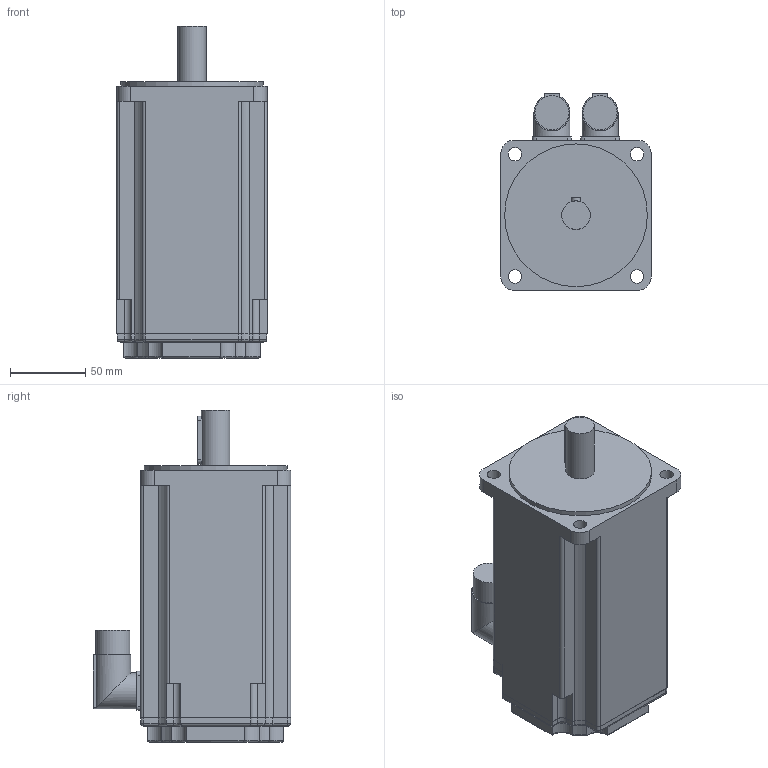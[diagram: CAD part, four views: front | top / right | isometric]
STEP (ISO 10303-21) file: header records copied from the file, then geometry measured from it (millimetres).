
FILE_DESCRIPTION(/* description */ (''),/* implementation_level */ '2;1');
FILE_NAME(/* name */ '\\Lafnas01\disegni\Archivi Lafert\3D\CAD 3D\MODELLI\Assiemi clienti\Serad\Modelli 3D Serad\B63Q\Encoder\Enc Without Brake\B6306Qxx6ARx2033.ipt.stp',/* time_stamp */ '2015-09-07T10:51:00+02:00',/* author */ ('Pastrello Ylenia'),/* organization */ (''),/* preprocessor_version */ 'ST-DEVELOPER v15.6',/* originating_system */ 'Autodesk Inventor 2015',/* authorisation */ '');
FILE_SCHEMA (('AUTOMOTIVE_DESIGN { 1 0 10303 214 3 1 1 }'));
Length unit declared in the file: millimetre
Products named in the file (1): B6306Qxx6ARx2033
Bounding box: 100 x 131.5 x 221 mm (x, y, z)
Volume: 1667898.2 mm3; surface area: 100752.9 mm2
Topology: 1 solids, 1 shells, 195 faces, 500 edges, 318 vertices
Faces by surface type: cylinder 90, plane 81, torus 20, sphere 4
Full cylindrical faces by diameter (mm): 9 x4, 19 x1, 22.7 x2, 24 x2, 95 x1
Entity records: 6152 total; most frequent: CARTESIAN_POINT 1342, DIRECTION 1030, ORIENTED_EDGE 972, EDGE_CURVE 486, AXIS2_PLACEMENT_3D 374, VERTEX_POINT 314, LINE 282, VECTOR 282
